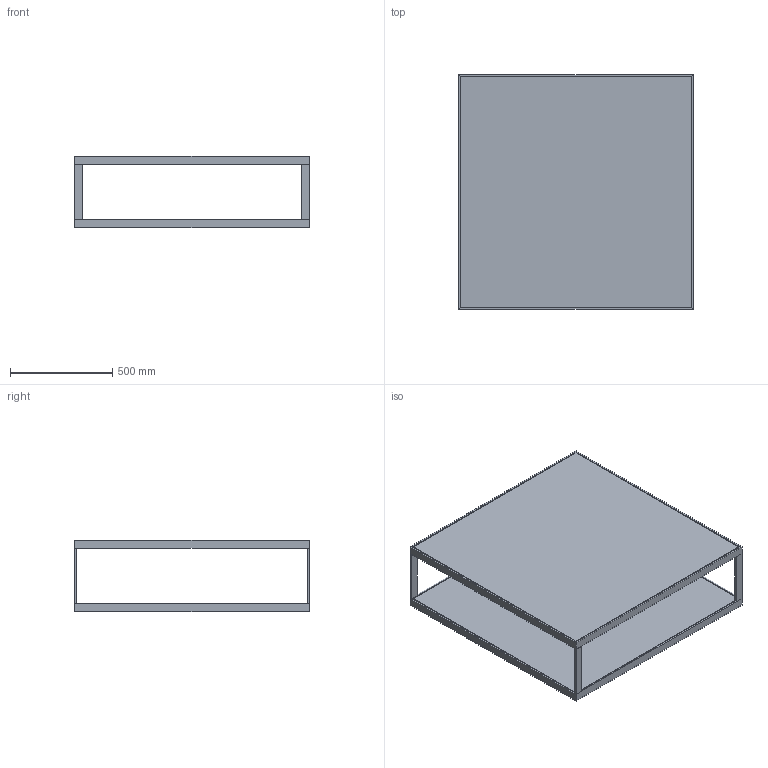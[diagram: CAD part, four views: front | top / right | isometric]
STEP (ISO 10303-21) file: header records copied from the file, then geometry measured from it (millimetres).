
FILE_DESCRIPTION(/* description */ (''),/* implementation_level */ '2;1');
FILE_NAME(/* name */ 'Easy_table115x115.stp',/* time_stamp */ '2023-04-06T11:24:27+02:00',/* author */ ('TorbjörnMalm'),/* organization */ (''),/* preprocessor_version */ 'ST-DEVELOPER v19.2',/* originating_system */ 'Autodesk Inventor 2023',/* authorisation */ '');
FILE_SCHEMA (('AUTOMOTIVE_DESIGN { 1 0 10303 214 3 1 1 }'));
Length unit declared in the file: millimetre
Products named in the file (1): Easy_table115x115
Bounding box: 1150 x 1150 x 350 mm (x, y, z)
Volume: 4079999.2 mm3; surface area: 6480660.6 mm2
Topology: 6 solids, 8 shells, 100 faces, 211 edges, 124 vertices
Faces by surface type: plane 100
Entity records: 2718 total; most frequent: CARTESIAN_POINT 436, ORIENTED_EDGE 422, DIRECTION 413, LINE 211, VECTOR 211, EDGE_CURVE 211, VERTEX_POINT 123, AXIS2_PLACEMENT_3D 101
